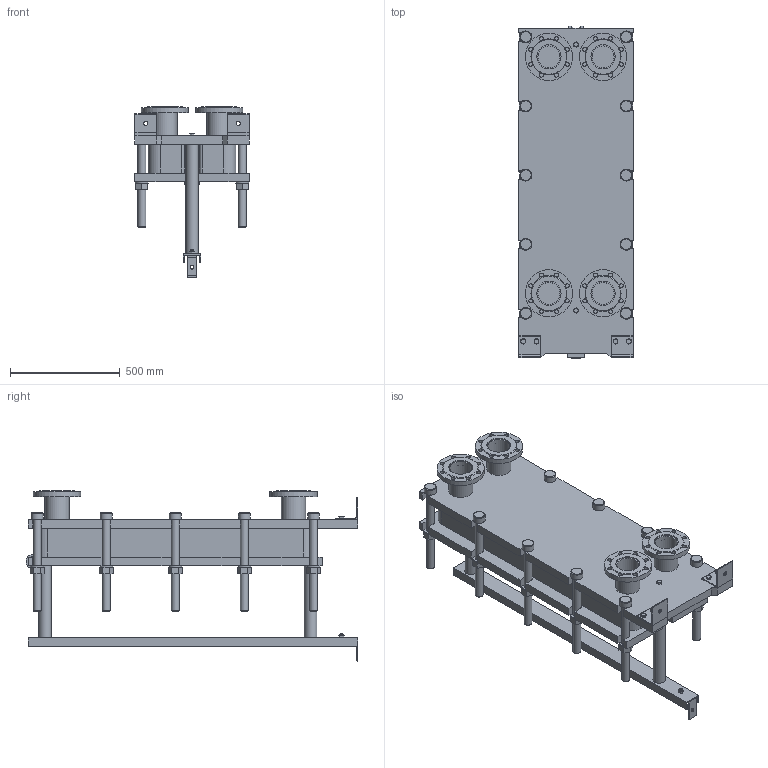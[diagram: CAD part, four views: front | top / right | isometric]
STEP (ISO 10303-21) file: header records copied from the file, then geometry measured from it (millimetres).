
FILE_DESCRIPTION(/* description */ (''),/* implementation_level */ '2;1');
FILE_NAME(/* name */ 'C:\Users\zhuro\Desktop\ENCO\TO\ЭН-04\ЭН-0,5-04-38-1.stp',/* time_stamp */ '2022-06-06T10:47:15+03:00',/* author */ ('zhuro'),/* organization */ (''),/* preprocessor_version */ 'ST-DEVELOPER v18.1',/* originating_system */ 'Autodesk Inventor 2022',/* authorisation */ '');
FILE_SCHEMA (('AUTOMOTIVE_DESIGN { 1 0 10303 214 3 1 1 }'));
Length unit declared in the file: millimetre
Products named in the file (1): ЭН-0,5-04-38-1
Bounding box: 520 x 1510 x 774 mm (x, y, z)
Volume: 133386310.6 mm3; surface area: 6991876.1 mm2
Topology: 45 solids, 45 shells, 668 faces, 1611 edges, 1048 vertices
Faces by surface type: plane 457, cylinder 166, cone 39, torus 6
Full cylindrical faces by diameter (mm): 8 x4, 10 x2, 16 x8, 18 x35, 36 x25, 40 x2, 42 x1, 45 x4, 54 x10, 57 x2, 60 x10, 68 x2, 100 x4, 110 x8, 215 x4
Entity records: 23607 total; most frequent: CARTESIAN_POINT 7348, DIRECTION 3371, ORIENTED_EDGE 3142, EDGE_CURVE 1571, AXIS2_PLACEMENT_3D 1199, VERTEX_POINT 1044, LINE 973, VECTOR 973
